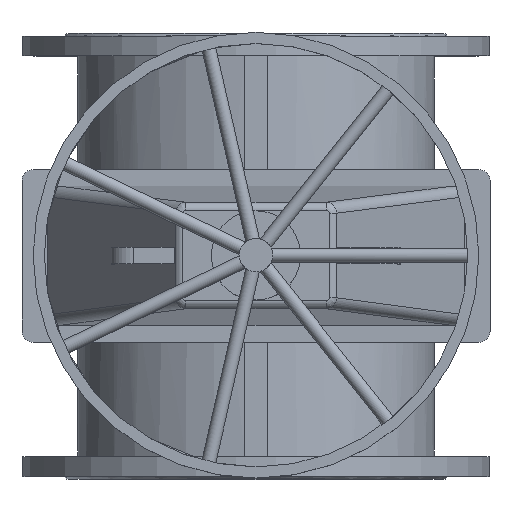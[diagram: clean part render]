
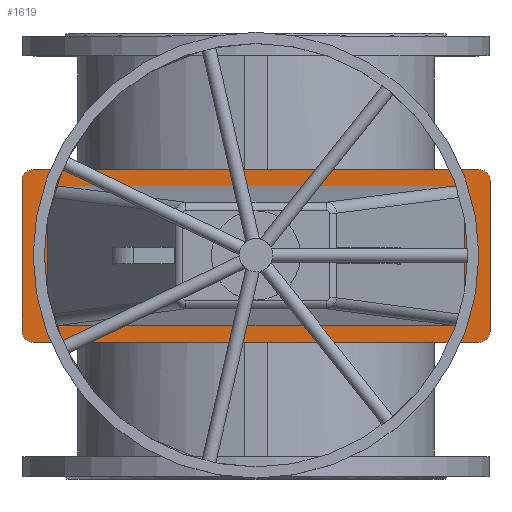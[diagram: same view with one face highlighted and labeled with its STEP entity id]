
A CAD part, top view. The second image highlights one B-rep face of the part: STEP entity #1619.
In plain terms, the highlighted planar face has unit normal (0, 0, 1).
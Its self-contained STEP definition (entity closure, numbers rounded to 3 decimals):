
#1619=ADVANCED_FACE('',(#4248,#4250),#4252,.T.);
#4248=FACE_BOUND('',#4249,.T.);
#4249=EDGE_LOOP('',(#5959,#5960,#5961,#5962,#5963,#5964,#5965,#5966));
#4250=FACE_BOUND('',#4251,.T.);
#4251=EDGE_LOOP('',(#5967,#5968,#5969,#5970,#5971,#5972,#5973,#5974));
#4252=PLANE('',#4253);
#4253=AXIS2_PLACEMENT_3D('',#4254,#4255,#4256);
#4254=CARTESIAN_POINT('',(0.,0.,650.));
#4255=DIRECTION('',(0.,-0.,1.));
#4256=DIRECTION('',(0.,1.,0.));
#5959=ORIENTED_EDGE('',*,*,#6665,.F.);
#5960=ORIENTED_EDGE('',*,*,#6678,.T.);
#5961=ORIENTED_EDGE('',*,*,#6677,.F.);
#5962=ORIENTED_EDGE('',*,*,#6675,.T.);
#5963=ORIENTED_EDGE('',*,*,#6673,.F.);
#5964=ORIENTED_EDGE('',*,*,#6671,.T.);
#5965=ORIENTED_EDGE('',*,*,#6669,.F.);
#5966=ORIENTED_EDGE('',*,*,#6666,.T.);
#5967=ORIENTED_EDGE('',*,*,#6679,.F.);
#5968=ORIENTED_EDGE('',*,*,#6680,.F.);
#5969=ORIENTED_EDGE('',*,*,#6681,.F.);
#5970=ORIENTED_EDGE('',*,*,#6682,.F.);
#5971=ORIENTED_EDGE('',*,*,#6683,.F.);
#5972=ORIENTED_EDGE('',*,*,#6684,.F.);
#5973=ORIENTED_EDGE('',*,*,#6685,.F.);
#5974=ORIENTED_EDGE('',*,*,#6686,.F.);
#6665=EDGE_CURVE('',#7645,#7643,#7647,.F.);
#6666=EDGE_CURVE('',#7648,#7643,#7649,.T.);
#6669=EDGE_CURVE('',#7648,#7651,#7653,.F.);
#6671=EDGE_CURVE('',#7654,#7651,#7656,.T.);
#6673=EDGE_CURVE('',#7654,#7657,#7659,.F.);
#6675=EDGE_CURVE('',#7660,#7657,#7662,.T.);
#6677=EDGE_CURVE('',#7660,#7663,#7665,.F.);
#6678=EDGE_CURVE('',#7645,#7663,#7666,.T.);
#6679=EDGE_CURVE('',#7667,#7668,#7669,.F.);
#6680=EDGE_CURVE('',#7670,#7667,#7671,.T.);
#6681=EDGE_CURVE('',#7672,#7670,#7673,.T.);
#6682=EDGE_CURVE('',#7674,#7672,#7675,.T.);
#6683=EDGE_CURVE('',#7676,#7674,#7677,.F.);
#6684=EDGE_CURVE('',#7678,#7676,#7679,.T.);
#6685=EDGE_CURVE('',#7680,#7678,#7681,.T.);
#6686=EDGE_CURVE('',#7668,#7680,#7682,.T.);
#7643=VERTEX_POINT('',#13013);
#7645=VERTEX_POINT('',#13017);
#7647=CIRCLE('',#13021,20.);
#7648=VERTEX_POINT('',#13025);
#7649=LINE('',#13026,#13027);
#7651=VERTEX_POINT('',#13032);
#7653=CIRCLE('',#13036,20.);
#7654=VERTEX_POINT('',#13040);
#7656=LINE('',#13044,#13045);
#7657=VERTEX_POINT('',#13047);
#7659=CIRCLE('',#13051,20.);
#7660=VERTEX_POINT('',#13055);
#7662=LINE('',#13059,#13060);
#7663=VERTEX_POINT('',#13062);
#7665=CIRCLE('',#13066,20.);
#7666=LINE('',#13070,#13071);
#7667=VERTEX_POINT('',#13073);
#7668=VERTEX_POINT('',#13074);
#7669=(BOUNDED_CURVE()B_SPLINE_CURVE(3,
(#13075,#13076,#13077,#13078),
.UNSPECIFIED.,.F.,.F.)B_SPLINE_CURVE_WITH_KNOTS((4,4),
(0.,1.),
.UNSPECIFIED.)CURVE()GEOMETRIC_REPRESENTATION_ITEM()RATIONAL_B_SPLINE_CURVE((1.,
0.816,0.816,1.))REPRESENTATION_ITEM(''));
#7670=VERTEX_POINT('',#13079);
#7671=LINE('',#13080,#13081);
#7672=VERTEX_POINT('',#13083);
#7673=(BOUNDED_CURVE()B_SPLINE_CURVE(3,
(#13084,#13085,#13086,#13087),
.UNSPECIFIED.,.F.,.F.)B_SPLINE_CURVE_WITH_KNOTS((4,4),
(0.,1.),
.UNSPECIFIED.)CURVE()GEOMETRIC_REPRESENTATION_ITEM()RATIONAL_B_SPLINE_CURVE((1.,
0.816,0.816,1.))REPRESENTATION_ITEM(''));
#7674=VERTEX_POINT('',#13088);
#7675=LINE('',#13089,#13090);
#7676=VERTEX_POINT('',#13092);
#7677=(BOUNDED_CURVE()B_SPLINE_CURVE(3,
(#13093,#13094,#13095,#13096),
.UNSPECIFIED.,.F.,.F.)B_SPLINE_CURVE_WITH_KNOTS((4,4),
(0.,1.),
.UNSPECIFIED.)CURVE()GEOMETRIC_REPRESENTATION_ITEM()RATIONAL_B_SPLINE_CURVE((1.,
0.816,0.816,1.))REPRESENTATION_ITEM(''));
#7678=VERTEX_POINT('',#13097);
#7679=LINE('',#13098,#13099);
#7680=VERTEX_POINT('',#13101);
#7681=(BOUNDED_CURVE()B_SPLINE_CURVE(3,
(#13102,#13103,#13104,#13105),
.UNSPECIFIED.,.F.,.F.)B_SPLINE_CURVE_WITH_KNOTS((4,4),
(0.,1.),
.UNSPECIFIED.)CURVE()GEOMETRIC_REPRESENTATION_ITEM()RATIONAL_B_SPLINE_CURVE((1.,
0.816,0.816,1.))REPRESENTATION_ITEM(''));
#7682=LINE('',#13106,#13107);
#13013=CARTESIAN_POINT('',(-420.,-135.,650.));
#13017=CARTESIAN_POINT('',(-400.,-155.,650.));
#13021=AXIS2_PLACEMENT_3D('',#13022,#13023,#13024);
#13022=CARTESIAN_POINT('',(-400.,-135.,650.));
#13023=DIRECTION('',(0.,-0.,1.));
#13024=DIRECTION('',(-1.,0.,0.));
#13025=CARTESIAN_POINT('',(-420.,135.,650.));
#13026=CARTESIAN_POINT('',(-420.,135.,650.));
#13027=VECTOR('',#13028,1.);
#13028=DIRECTION('',(0.,-1.,0.));
#13032=CARTESIAN_POINT('',(-400.,155.,650.));
#13036=AXIS2_PLACEMENT_3D('',#13037,#13038,#13039);
#13037=CARTESIAN_POINT('',(-400.,135.,650.));
#13038=DIRECTION('',(0.,-0.,1.));
#13039=DIRECTION('',(0.,1.,0.));
#13040=CARTESIAN_POINT('',(400.,155.,650.));
#13044=CARTESIAN_POINT('',(400.,155.,650.));
#13045=VECTOR('',#13046,1.);
#13046=DIRECTION('',(-1.,0.,0.));
#13047=CARTESIAN_POINT('',(420.,135.,650.));
#13051=AXIS2_PLACEMENT_3D('',#13052,#13053,#13054);
#13052=CARTESIAN_POINT('',(400.,135.,650.));
#13053=DIRECTION('',(0.,-0.,1.));
#13054=DIRECTION('',(1.,0.,0.));
#13055=CARTESIAN_POINT('',(420.,-135.,650.));
#13059=CARTESIAN_POINT('',(420.,-135.,650.));
#13060=VECTOR('',#13061,1.);
#13061=DIRECTION('',(0.,1.,0.));
#13062=CARTESIAN_POINT('',(400.,-155.,650.));
#13066=AXIS2_PLACEMENT_3D('',#13067,#13068,#13069);
#13067=CARTESIAN_POINT('',(400.,-135.,650.));
#13068=DIRECTION('',(0.,-0.,1.));
#13069=DIRECTION('',(0.,-1.,0.));
#13070=CARTESIAN_POINT('',(-400.,-155.,650.));
#13071=VECTOR('',#13072,1.);
#13072=DIRECTION('',(1.,0.,0.));
#13073=CARTESIAN_POINT('',(-375.,-105.899,650.));
#13074=CARTESIAN_POINT('',(-352.08,-125.,650.));
#13075=CARTESIAN_POINT('',(-352.08,-125.,650.));
#13076=CARTESIAN_POINT('',(-365.638,-125.,650.));
#13077=CARTESIAN_POINT('',(-375.,-117.198,650.));
#13078=CARTESIAN_POINT('',(-375.,-105.899,650.));
#13079=CARTESIAN_POINT('',(-375.,105.899,650.));
#13080=CARTESIAN_POINT('',(-375.,105.899,650.));
#13081=VECTOR('',#13082,1.);
#13082=DIRECTION('',(0.,-1.,0.));
#13083=CARTESIAN_POINT('',(-352.08,125.,650.));
#13084=CARTESIAN_POINT('',(-352.08,125.,650.));
#13085=CARTESIAN_POINT('',(-365.638,125.,650.));
#13086=CARTESIAN_POINT('',(-375.,117.198,650.));
#13087=CARTESIAN_POINT('',(-375.,105.899,650.));
#13088=CARTESIAN_POINT('',(352.08,125.,650.));
#13089=CARTESIAN_POINT('',(352.08,125.,650.));
#13090=VECTOR('',#13091,1.);
#13091=DIRECTION('',(-1.,0.,0.));
#13092=CARTESIAN_POINT('',(375.,105.899,650.));
#13093=CARTESIAN_POINT('',(352.08,125.,650.));
#13094=CARTESIAN_POINT('',(365.638,125.,650.));
#13095=CARTESIAN_POINT('',(375.,117.198,650.));
#13096=CARTESIAN_POINT('',(375.,105.899,650.));
#13097=CARTESIAN_POINT('',(375.,-105.899,650.));
#13098=CARTESIAN_POINT('',(375.,-105.899,650.));
#13099=VECTOR('',#13100,1.);
#13100=DIRECTION('',(0.,1.,0.));
#13101=CARTESIAN_POINT('',(352.08,-125.,650.));
#13102=CARTESIAN_POINT('',(352.08,-125.,650.));
#13103=CARTESIAN_POINT('',(365.638,-125.,650.));
#13104=CARTESIAN_POINT('',(375.,-117.198,650.));
#13105=CARTESIAN_POINT('',(375.,-105.899,650.));
#13106=CARTESIAN_POINT('',(-352.08,-125.,650.));
#13107=VECTOR('',#13108,1.);
#13108=DIRECTION('',(1.,0.,0.));
